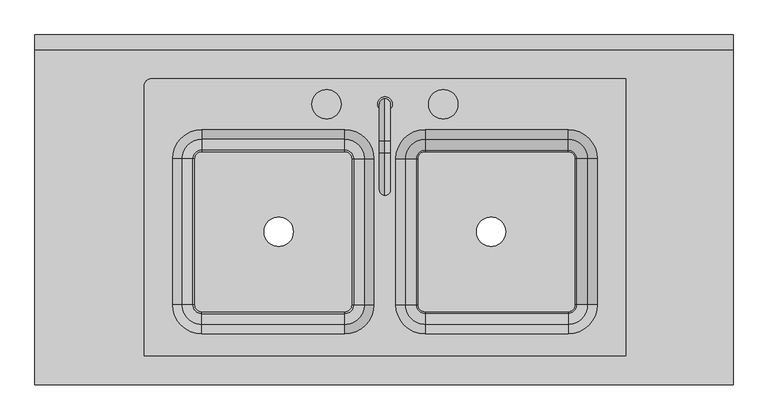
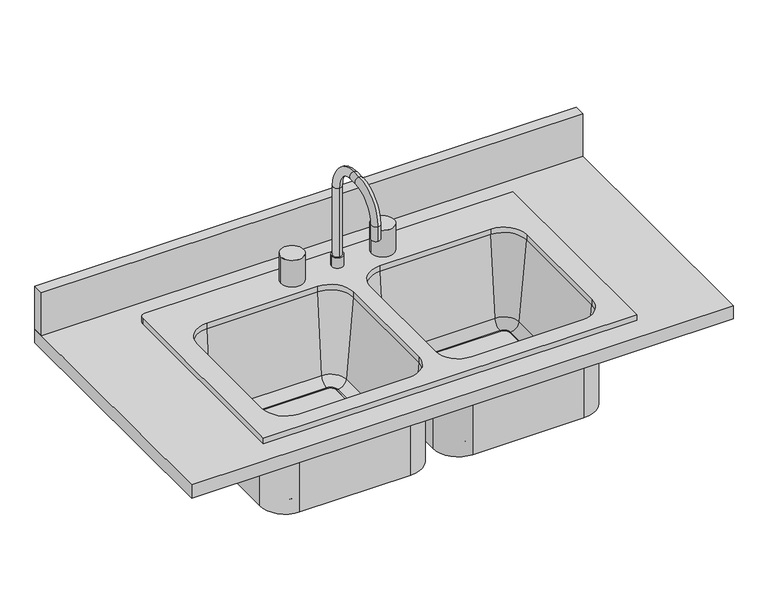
"""IFC4 building model written with IfcOpenShell, lengths in millimetres: furniture geometry."""

from ifc_helpers import new_model, si_unit, point, frame, frame_2d, origin, place, context, project, spatial, polyline, circle_curve, ellipse_curve, trimmed, segment, composite_curve, outline, extrude, source, transform, mapped, element, save
from ifc_brep_helpers import plane_surface, cylinder_surface, revolved_surface, advanced_brep


def furniture_b5d96ffa(model_context):
    return source(origin(), model_context, "Body", "SolidModel", [
        advanced_brep(
        [(420.6875, 101.6, 927.1), (-404.8125, 101.6, 927.1), (-417.5125, 88.9, 927.1), (-417.5125, -381.0, 927.1), (420.6875, -381.0, 927.1), (-68.2625, 12.7, 927.1), (-17.4625, -38.1, 927.1), (-17.4625, -292.1, 927.1), (-68.2625, -342.9, 927.1), (-317.5, -342.9, 927.1), (-368.3, -292.1, 927.1), (-368.3, -38.1, 927.1), (-317.5, 12.7, 927.1), (71.4375, -342.9, 927.1), (20.6375, -292.1, 927.1), (20.6375, -38.1, 927.1), (71.4375, 12.7, 927.1), (320.675, 12.7, 927.1), (371.475, -38.1, 927.1), (371.475, -292.1, 927.1), (320.675, -342.9, 927.1), (420.6875, 101.6, 914.4), (420.6875, -381.0, 914.4), (-417.5125, -381.0, 914.4), (-417.5125, 88.9, 914.4), (-404.8125, 101.6, 914.4), (71.4375, 19.05, 914.4), (14.2875, -38.1, 914.4), (14.2875, -292.1, 914.4), (71.4375, -349.25, 914.4), (320.675, -349.25, 914.4), (377.825, -292.1, 914.4), (377.825, -38.1, 914.4), (320.675, 19.05, 914.4), (-11.1125, -38.1, 914.4), (-68.2625, 19.05, 914.4), (-317.5, 19.05, 914.4), (-374.65, -38.1, 914.4), (-374.65, -292.1, 914.4), (-317.5, -349.25, 914.4), (-68.2625, -349.25, 914.4), (-11.1125, -292.1, 914.4), (-68.2625, 12.7, 914.4), (-17.4625, -38.1, 914.4), (-17.4625, -292.1, 914.4), (-68.2625, -342.9, 914.4), (-317.5, -342.9, 914.4), (-368.3, -292.1, 914.4), (-368.3, -38.1, 914.4), (-317.5, 12.7, 914.4), (71.4375, -342.9, 914.4), (20.6375, -292.1, 914.4), (20.6375, -38.1, 914.4), (71.4375, 12.7, 914.4), (320.675, 12.7, 914.4), (371.475, -38.1, 914.4), (371.475, -292.1, 914.4), (320.675, -342.9, 914.4), (37.1715728, -38.1, 725.4146831), (71.4375, -3.8340728, 725.4146831), (56.1490818, -38.1, 708.025), (71.4375, -22.8115818, 708.025), (58.7375, -38.1, 708.025), (71.4375, -25.4, 708.025), (58.7375, -38.1, 698.5), (71.4375, -25.4, 698.5), (14.2875, -38.1, 698.5), (71.4375, 19.05, 698.5), (37.1715728, -292.1, 725.4146831), (56.1490818, -292.1, 708.025), (58.7375, -292.1, 708.025), (58.7375, -292.1, 698.5), (14.2875, -292.1, 698.5), (71.4375, -326.3659272, 725.4146831), (71.4375, -307.3884182, 708.025), (71.4375, -304.8, 708.025), (71.4375, -304.8, 698.5), (71.4375, -349.25, 698.5), (320.675, -326.3659272, 725.4146831), (320.675, -307.3884182, 708.025), (320.675, -304.8, 708.025), (320.675, -304.8, 698.5), (320.675, -349.25, 698.5), (354.9409272, -292.1, 725.4146831), (335.9634182, -292.1, 708.025), (333.375, -292.1, 708.025), (333.375, -292.1, 698.5), (377.825, -292.1, 698.5), (354.9409272, -38.1, 725.4146831), (335.9634182, -38.1, 708.025), (333.375, -38.1, 708.025), (333.375, -38.1, 698.5), (377.825, -38.1, 698.5), (320.675, -3.8340728, 725.4146831), (320.675, -22.8115818, 708.025), (320.675, -25.4, 708.025), (320.675, -25.4, 698.5), (320.675, 19.05, 698.5), (-11.1125, -38.1, 698.5), (-68.2625, 19.05, 698.5), (-55.5625, -38.1, 698.5), (-68.2625, -25.4, 698.5), (-55.5625, -38.1, 708.025), (-68.2625, -25.4, 708.025), (-52.9740818, -38.1, 708.025), (-68.2625, -22.8115818, 708.025), (-33.9965728, -38.1, 725.4146831), (-68.2625, -3.8340728, 725.4146831), (-11.1125, -292.1, 698.5), (-55.5625, -292.1, 698.5), (-55.5625, -292.1, 708.025), (-52.9740818, -292.1, 708.025), (-33.9965728, -292.1, 725.4146831), (-68.2625, -349.25, 698.5), (-68.2625, -304.8, 698.5), (-68.2625, -304.8, 708.025), (-68.2625, -307.3884182, 708.025), (-68.2625, -326.3659272, 725.4146831), (-317.5, -349.25, 698.5), (-317.5, -304.8, 698.5), (-317.5, -304.8, 708.025), (-317.5, -307.3884182, 708.025), (-317.5, -326.3659272, 725.4146831), (-374.65, -292.1, 698.5), (-330.2, -292.1, 698.5), (-330.2, -292.1, 708.025), (-332.7884182, -292.1, 708.025), (-351.7659272, -292.1, 725.4146831), (-374.65, -38.1, 698.5), (-330.2, -38.1, 698.5), (-330.2, -38.1, 708.025), (-332.7884182, -38.1, 708.025), (-351.7659272, -38.1, 725.4146831), (-317.5, 19.05, 698.5), (-317.5, -25.4, 698.5), (-317.5, -25.4, 708.025), (-317.5, -22.8115818, 708.025), (-317.5, -3.8340728, 725.4146831)],
        [
            (0, 1),
            (1, 2, circle_curve(frame((-404.8125, 88.9, 927.1), z_axis=(0.0, 0.0, 1.0), x_axis=(1.0, 0.0, 0.0)), 12.7)),
            (2, 3),
            (3, 4),
            (4, 0),
            (5, 6, circle_curve(frame((-68.2625, -38.1, 927.1), z_axis=(0.0, 0.0, -1.0), x_axis=(1.0, 0.0, 0.0)), 50.8)),
            (6, 7),
            (7, 8, circle_curve(frame((-68.2625, -292.1, 927.1), z_axis=(0.0, 0.0, -1.0), x_axis=(1.0, 0.0, 0.0)), 50.8)),
            (8, 9),
            (9, 10, circle_curve(frame((-317.5, -292.1, 927.1), z_axis=(0.0, 0.0, -1.0), x_axis=(1.0, 0.0, 0.0)), 50.8)),
            (10, 11),
            (11, 12, circle_curve(frame((-317.5, -38.1, 927.1), z_axis=(0.0, 0.0, -1.0), x_axis=(1.0, 0.0, 0.0)), 50.8)),
            (12, 5),
            (13, 14, circle_curve(frame((71.4375, -292.1, 927.1), z_axis=(0.0, 0.0, -1.0), x_axis=(1.0, 0.0, 0.0)), 50.8)),
            (14, 15),
            (15, 16, circle_curve(frame((71.4375, -38.1, 927.1), z_axis=(0.0, 0.0, -1.0), x_axis=(1.0, 0.0, 0.0)), 50.8)),
            (16, 17),
            (17, 18, circle_curve(frame((320.675, -38.1, 927.1), z_axis=(0.0, 0.0, -1.0), x_axis=(1.0, 0.0, 0.0)), 50.8)),
            (18, 19),
            (19, 20, circle_curve(frame((320.675, -292.1, 927.1), z_axis=(0.0, 0.0, -1.0), x_axis=(1.0, 0.0, 0.0)), 50.8)),
            (20, 13),
            (21, 22),
            (22, 23),
            (23, 24),
            (24, 25, circle_curve(frame((-404.8125, 88.9, 914.4), z_axis=(0.0, 0.0, -1.0), x_axis=(1.0, 0.0, 0.0)), 12.7)),
            (25, 21),
            (26, 27, circle_curve(frame((71.4375, -38.1, 914.4), z_axis=(0.0, 0.0, 1.0), x_axis=(0.0, 1.0, 0.0)), 57.15)),
            (27, 28),
            (28, 29, circle_curve(frame((71.4375, -292.1, 914.4), z_axis=(0.0, 0.0, 1.0), x_axis=(-1.0, 0.0, 0.0)), 57.15)),
            (29, 30),
            (30, 31, circle_curve(frame((320.675, -292.1, 914.4), z_axis=(0.0, 0.0, 1.0), x_axis=(0.0, -1.0, 0.0)), 57.15)),
            (31, 32),
            (32, 33, circle_curve(frame((320.675, -38.1, 914.4), z_axis=(0.0, 0.0, 1.0), x_axis=(1.0, 0.0, 0.0)), 57.15)),
            (33, 26),
            (34, 35, circle_curve(frame((-68.2625, -38.1, 914.4), z_axis=(0.0, 0.0, 1.0), x_axis=(0.0, 1.0, 0.0)), 57.15)),
            (35, 36),
            (36, 37, circle_curve(frame((-317.5, -38.1, 914.4), z_axis=(0.0, 0.0, 1.0), x_axis=(-1.0, 0.0, 0.0)), 57.15)),
            (37, 38),
            (38, 39, circle_curve(frame((-317.5, -292.1, 914.4), z_axis=(0.0, 0.0, 1.0), x_axis=(0.0, -1.0, 0.0)), 57.15)),
            (39, 40),
            (40, 41, circle_curve(frame((-68.2625, -292.1, 914.4), z_axis=(0.0, 0.0, 1.0), x_axis=(1.0, 0.0, 0.0)), 57.15)),
            (41, 34),
            (0, 21),
            (25, 1),
            (24, 2),
            (23, 3),
            (22, 4),
            (5, 42),
            (42, 43, circle_curve(frame((-68.2625, -38.1, 914.4), z_axis=(0.0, 0.0, -1.0), x_axis=(1.0, 0.0, 0.0)), 50.8)),
            (43, 6),
            (43, 44),
            (44, 7),
            (44, 45, circle_curve(frame((-68.2625, -292.1, 914.4), z_axis=(0.0, 0.0, -1.0), x_axis=(1.0, 0.0, 0.0)), 50.8)),
            (45, 8),
            (45, 46),
            (46, 9),
            (46, 47, circle_curve(frame((-317.5, -292.1, 914.4), z_axis=(0.0, 0.0, -1.0), x_axis=(1.0, 0.0, 0.0)), 50.8)),
            (47, 10),
            (47, 48),
            (48, 11),
            (48, 49, circle_curve(frame((-317.5, -38.1, 914.4), z_axis=(0.0, 0.0, -1.0), x_axis=(1.0, 0.0, 0.0)), 50.8)),
            (49, 12),
            (49, 42),
            (13, 50),
            (50, 51, circle_curve(frame((71.4375, -292.1, 914.4), z_axis=(0.0, 0.0, -1.0), x_axis=(1.0, 0.0, 0.0)), 50.8)),
            (51, 14),
            (51, 52),
            (52, 15),
            (52, 53, circle_curve(frame((71.4375, -38.1, 914.4), z_axis=(0.0, 0.0, -1.0), x_axis=(1.0, 0.0, 0.0)), 50.8)),
            (53, 16),
            (53, 54),
            (54, 17),
            (54, 55, circle_curve(frame((320.675, -38.1, 914.4), z_axis=(0.0, 0.0, -1.0), x_axis=(1.0, 0.0, 0.0)), 50.8)),
            (55, 18),
            (55, 56),
            (56, 19),
            (56, 57, circle_curve(frame((320.675, -292.1, 914.4), z_axis=(0.0, 0.0, -1.0), x_axis=(1.0, 0.0, 0.0)), 50.8)),
            (57, 20),
            (57, 50),
            (58, 59, circle_curve(frame((71.4375, -38.1, 725.4146831), z_axis=(0.0, 0.0, -1.0), x_axis=(0.0, 1.0, 0.0)), 34.2659272)),
            (59, 53),
            (52, 58),
            (58, 60, circle_curve(frame((56.1490818, -38.1, 727.075), z_axis=(0.0, -1.0, 0.0), x_axis=(1.0, 0.0, 0.0)), 19.05)),
            (60, 61, circle_curve(frame((71.4375, -38.1, 708.025), z_axis=(0.0, 0.0, -1.0), x_axis=(0.0, 1.0, 0.0)), 15.2884182)),
            (61, 59, circle_curve(frame((71.4375, -22.8115818, 727.075), z_axis=(1.0, 0.0, 0.0), x_axis=(0.0, -1.0, 0.0)), 19.05)),
            (60, 62),
            (62, 63, circle_curve(frame((71.4375, -38.1, 708.025), z_axis=(0.0, 0.0, -1.0), x_axis=(0.0, 1.0, 0.0)), 12.7)),
            (63, 61),
            (62, 64),
            (64, 65, circle_curve(frame((71.4375, -38.1, 698.5), z_axis=(0.0, 0.0, -1.0), x_axis=(0.0, 1.0, 0.0)), 12.7)),
            (65, 63),
            (64, 66),
            (66, 67, circle_curve(frame((71.4375, -38.1, 698.5), z_axis=(0.0, 0.0, -1.0), x_axis=(0.0, 1.0, 0.0)), 57.15)),
            (67, 65),
            (66, 27),
            (26, 67),
            (51, 68),
            (68, 58),
            (68, 69, circle_curve(frame((56.1490818, -292.1, 727.075), z_axis=(0.0, -1.0, 0.0), x_axis=(1.0, 0.0, 0.0)), 19.05)),
            (69, 60),
            (69, 70),
            (70, 62),
            (70, 71),
            (71, 64),
            (71, 72),
            (72, 66),
            (72, 28),
            (50, 73),
            (73, 68, circle_curve(frame((71.4375, -292.1, 725.4146831), z_axis=(0.0, 0.0, -1.0), x_axis=(-1.0, 0.0, 0.0)), 34.2659272)),
            (73, 74, circle_curve(frame((71.4375, -307.3884182, 727.075), z_axis=(1.0, 0.0, 0.0), x_axis=(0.0, 1.0, 0.0)), 19.05)),
            (74, 69, circle_curve(frame((71.4375, -292.1, 708.025), z_axis=(0.0, 0.0, -1.0), x_axis=(-1.0, 0.0, 0.0)), 15.2884182)),
            (74, 75),
            (75, 70, circle_curve(frame((71.4375, -292.1, 708.025), z_axis=(0.0, 0.0, -1.0), x_axis=(-1.0, 0.0, 0.0)), 12.7)),
            (75, 76),
            (76, 71, circle_curve(frame((71.4375, -292.1, 698.5), z_axis=(0.0, 0.0, -1.0), x_axis=(-1.0, 0.0, 0.0)), 12.7)),
            (76, 77),
            (77, 72, circle_curve(frame((71.4375, -292.1, 698.5), z_axis=(0.0, 0.0, -1.0), x_axis=(-1.0, 0.0, 0.0)), 57.15)),
            (77, 29),
            (57, 78),
            (78, 73),
            (78, 79, circle_curve(frame((320.675, -307.3884182, 727.075), z_axis=(1.0, 0.0, 0.0), x_axis=(0.0, 1.0, 0.0)), 19.05)),
            (79, 74),
            (79, 80),
            (80, 75),
            (80, 81),
            (81, 76),
            (81, 82),
            (82, 77),
            (82, 30),
            (56, 83),
            (83, 78, circle_curve(frame((320.675, -292.1, 725.4146831), z_axis=(0.0, 0.0, -1.0), x_axis=(0.0, -1.0, 0.0)), 34.2659272)),
            (83, 84, circle_curve(frame((335.9634182, -292.1, 727.075), z_axis=(0.0, 1.0, 0.0), x_axis=(-1.0, 0.0, 0.0)), 19.05)),
            (84, 79, circle_curve(frame((320.675, -292.1, 708.025), z_axis=(0.0, 0.0, -1.0), x_axis=(0.0, -1.0, 0.0)), 15.2884182)),
            (84, 85),
            (85, 80, circle_curve(frame((320.675, -292.1, 708.025), z_axis=(0.0, 0.0, -1.0), x_axis=(0.0, -1.0, 0.0)), 12.7)),
            (85, 86),
            (86, 81, circle_curve(frame((320.675, -292.1, 698.5), z_axis=(0.0, 0.0, -1.0), x_axis=(0.0, -1.0, 0.0)), 12.7)),
            (86, 87),
            (87, 82, circle_curve(frame((320.675, -292.1, 698.5), z_axis=(0.0, 0.0, -1.0), x_axis=(0.0, -1.0, 0.0)), 57.15)),
            (87, 31),
            (55, 88),
            (88, 83),
            (88, 89, circle_curve(frame((335.9634182, -38.1, 727.075), z_axis=(0.0, 1.0, 0.0), x_axis=(-1.0, 0.0, 0.0)), 19.05)),
            (89, 84),
            (89, 90),
            (90, 85),
            (90, 91),
            (91, 86),
            (91, 92),
            (92, 87),
            (92, 32),
            (54, 93),
            (93, 88, circle_curve(frame((320.675, -38.1, 725.4146831), z_axis=(0.0, 0.0, -1.0), x_axis=(1.0, 0.0, 0.0)), 34.2659272)),
            (93, 94, circle_curve(frame((320.675, -22.8115818, 727.075), z_axis=(-1.0, 0.0, 0.0), x_axis=(0.0, -1.0, 0.0)), 19.05)),
            (94, 89, circle_curve(frame((320.675, -38.1, 708.025), z_axis=(0.0, 0.0, -1.0), x_axis=(1.0, 0.0, 0.0)), 15.2884182)),
            (94, 95),
            (95, 90, circle_curve(frame((320.675, -38.1, 708.025), z_axis=(0.0, 0.0, -1.0), x_axis=(1.0, 0.0, 0.0)), 12.7)),
            (95, 96),
            (96, 91, circle_curve(frame((320.675, -38.1, 698.5), z_axis=(0.0, 0.0, -1.0), x_axis=(1.0, 0.0, 0.0)), 12.7)),
            (96, 97),
            (97, 92, circle_curve(frame((320.675, -38.1, 698.5), z_axis=(0.0, 0.0, -1.0), x_axis=(1.0, 0.0, 0.0)), 57.15)),
            (97, 33),
            (59, 93),
            (61, 94),
            (63, 95),
            (65, 96),
            (67, 97),
            (98, 99, circle_curve(frame((-68.2625, -38.1, 698.5), z_axis=(0.0, 0.0, 1.0), x_axis=(0.0, 1.0, 0.0)), 57.15)),
            (99, 35),
            (34, 98),
            (98, 100),
            (100, 101, circle_curve(frame((-68.2625, -38.1, 698.5), z_axis=(0.0, 0.0, 1.0), x_axis=(0.0, 1.0, 0.0)), 12.7)),
            (101, 99),
            (100, 102),
            (102, 103, circle_curve(frame((-68.2625, -38.1, 708.025), z_axis=(0.0, 0.0, 1.0), x_axis=(0.0, 1.0, 0.0)), 12.7)),
            (103, 101),
            (102, 104),
            (104, 105, circle_curve(frame((-68.2625, -38.1, 708.025), z_axis=(0.0, 0.0, 1.0), x_axis=(0.0, 1.0, 0.0)), 15.2884182)),
            (105, 103),
            (104, 106, circle_curve(frame((-52.9740818, -38.1, 727.075), z_axis=(0.0, -1.0, 0.0), x_axis=(1.0, 0.0, 0.0)), 19.05)),
            (106, 107, circle_curve(frame((-68.2625, -38.1, 725.4146831), z_axis=(0.0, 0.0, 1.0), x_axis=(0.0, 1.0, 0.0)), 34.2659272)),
            (107, 105, circle_curve(frame((-68.2625, -22.8115818, 727.075), z_axis=(-1.0, 0.0, 0.0), x_axis=(0.0, 1.0, 0.0)), 19.05)),
            (106, 43),
            (42, 107),
            (41, 108),
            (108, 98),
            (108, 109),
            (109, 100),
            (109, 110),
            (110, 102),
            (110, 111),
            (111, 104),
            (111, 112, circle_curve(frame((-52.9740818, -292.1, 727.075), z_axis=(0.0, -1.0, 0.0), x_axis=(1.0, 0.0, 0.0)), 19.05)),
            (112, 106),
            (112, 44),
            (40, 113),
            (113, 108, circle_curve(frame((-68.2625, -292.1, 698.5), z_axis=(0.0, 0.0, 1.0), x_axis=(1.0, 0.0, 0.0)), 57.15)),
            (113, 114),
            (114, 109, circle_curve(frame((-68.2625, -292.1, 698.5), z_axis=(0.0, 0.0, 1.0), x_axis=(1.0, 0.0, 0.0)), 12.7)),
            (114, 115),
            (115, 110, circle_curve(frame((-68.2625, -292.1, 708.025), z_axis=(0.0, 0.0, 1.0), x_axis=(1.0, 0.0, 0.0)), 12.7)),
            (115, 116),
            (116, 111, circle_curve(frame((-68.2625, -292.1, 708.025), z_axis=(0.0, 0.0, 1.0), x_axis=(1.0, 0.0, 0.0)), 15.2884182)),
            (116, 117, circle_curve(frame((-68.2625, -307.3884182, 727.075), z_axis=(-1.0, 0.0, 0.0), x_axis=(0.0, -1.0, 0.0)), 19.05)),
            (117, 112, circle_curve(frame((-68.2625, -292.1, 725.4146831), z_axis=(0.0, 0.0, 1.0), x_axis=(1.0, 0.0, 0.0)), 34.2659272)),
            (117, 45),
            (39, 118),
            (118, 113),
            (118, 119),
            (119, 114),
            (119, 120),
            (120, 115),
            (120, 121),
            (121, 116),
            (121, 122, circle_curve(frame((-317.5, -307.3884182, 727.075), z_axis=(-1.0, 0.0, 0.0), x_axis=(0.0, -1.0, 0.0)), 19.05)),
            (122, 117),
            (122, 46),
            (38, 123),
            (123, 118, circle_curve(frame((-317.5, -292.1, 698.5), z_axis=(0.0, 0.0, 1.0), x_axis=(0.0, -1.0, 0.0)), 57.15)),
            (123, 124),
            (124, 119, circle_curve(frame((-317.5, -292.1, 698.5), z_axis=(0.0, 0.0, 1.0), x_axis=(0.0, -1.0, 0.0)), 12.7)),
            (124, 125),
            (125, 120, circle_curve(frame((-317.5, -292.1, 708.025), z_axis=(0.0, 0.0, 1.0), x_axis=(0.0, -1.0, 0.0)), 12.7)),
            (125, 126),
            (126, 121, circle_curve(frame((-317.5, -292.1, 708.025), z_axis=(0.0, 0.0, 1.0), x_axis=(0.0, -1.0, 0.0)), 15.2884182)),
            (126, 127, circle_curve(frame((-332.7884182, -292.1, 727.075), z_axis=(0.0, 1.0, 0.0), x_axis=(-1.0, 0.0, 0.0)), 19.05)),
            (127, 122, circle_curve(frame((-317.5, -292.1, 725.4146831), z_axis=(0.0, 0.0, 1.0), x_axis=(0.0, -1.0, 0.0)), 34.2659272)),
            (127, 47),
            (37, 128),
            (128, 123),
            (128, 129),
            (129, 124),
            (129, 130),
            (130, 125),
            (130, 131),
            (131, 126),
            (131, 132, circle_curve(frame((-332.7884182, -38.1, 727.075), z_axis=(0.0, 1.0, 0.0), x_axis=(-1.0, 0.0, 0.0)), 19.05)),
            (132, 127),
            (132, 48),
            (36, 133),
            (133, 128, circle_curve(frame((-317.5, -38.1, 698.5), z_axis=(0.0, 0.0, 1.0), x_axis=(-1.0, 0.0, 0.0)), 57.15)),
            (133, 134),
            (134, 129, circle_curve(frame((-317.5, -38.1, 698.5), z_axis=(0.0, 0.0, 1.0), x_axis=(-1.0, 0.0, 0.0)), 12.7)),
            (134, 135),
            (135, 130, circle_curve(frame((-317.5, -38.1, 708.025), z_axis=(0.0, 0.0, 1.0), x_axis=(-1.0, 0.0, 0.0)), 12.7)),
            (135, 136),
            (136, 131, circle_curve(frame((-317.5, -38.1, 708.025), z_axis=(0.0, 0.0, 1.0), x_axis=(-1.0, 0.0, 0.0)), 15.2884182)),
            (136, 137, circle_curve(frame((-317.5, -22.8115818, 727.075), z_axis=(1.0, 0.0, 0.0), x_axis=(0.0, 1.0, 0.0)), 19.05)),
            (137, 132, circle_curve(frame((-317.5, -38.1, 725.4146831), z_axis=(0.0, 0.0, 1.0), x_axis=(-1.0, 0.0, 0.0)), 34.2659272)),
            (137, 49),
            (99, 133),
            (101, 134),
            (103, 135),
            (105, 136),
            (107, 137),
        ],
        [
            plane_surface(frame((-404.8125, 101.6, 927.1), z_axis=(0.0, 0.0, 1.0), x_axis=(-1.0, 0.0, 0.0))),
            plane_surface(frame((-404.8125, 101.6, 914.4), z_axis=(0.0, 0.0, -1.0), x_axis=(1.0, 0.0, 0.0))),
            plane_surface(frame((420.6875, 101.6, 927.1), z_axis=(0.0, 1.0, 0.0), x_axis=(0.0, 0.0, -1.0))),
            cylinder_surface(frame((-404.8125, 88.9, 914.4), z_axis=(0.0, 0.0, 1.0), x_axis=(1.0, 0.0, 0.0)), 12.7),
            plane_surface(frame((-417.5125, 88.9, 927.1), z_axis=(-1.0, 0.0, 0.0), x_axis=(0.0, 0.0, -1.0))),
            plane_surface(frame((-417.5125, -381.0, 927.1), z_axis=(0.0, -1.0, 0.0), x_axis=(0.0, 0.0, -1.0))),
            plane_surface(frame((420.6875, -381.0, 927.1), z_axis=(1.0, 0.0, 0.0), x_axis=(0.0, 0.0, -1.0))),
            revolved_surface(polyline([(-17.462500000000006, -38.1, 914.4), (-17.462500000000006, -38.1, 927.1)]), (-68.2625, -38.1, 0.0), (0.0, 0.0, -1.0)),
            plane_surface(frame((-17.4625, -38.1, 927.1), z_axis=(-1.0, 0.0, 0.0), x_axis=(0.0, 0.0, -1.0))),
            revolved_surface(polyline([(-17.462500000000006, -292.1, 914.4), (-17.462500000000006, -292.1, 927.1)]), (-68.2625, -292.1, 0.0), (0.0, 0.0, -1.0)),
            plane_surface(frame((-68.2625, -342.9, 927.1), z_axis=(0.0, 1.0, 0.0), x_axis=(0.0, 0.0, -1.0))),
            revolved_surface(polyline([(-266.7, -292.1, 914.4), (-266.7, -292.1, 927.1)]), (-317.5, -292.1, 0.0), (0.0, 0.0, -1.0)),
            plane_surface(frame((-368.3, -292.1, 927.1), z_axis=(1.0, 0.0, 0.0), x_axis=(0.0, 0.0, -1.0))),
            revolved_surface(polyline([(-266.7, -38.1, 914.4), (-266.7, -38.1, 927.1)]), (-317.5, -38.1, 0.0), (0.0, 0.0, -1.0)),
            plane_surface(frame((-317.5, 12.7, 927.1), z_axis=(0.0, -1.0, 0.0), x_axis=(0.0, 0.0, -1.0))),
            revolved_surface(polyline([(122.2375, -292.1, 914.4), (122.2375, -292.1, 927.1)]), (71.4375, -292.1, 0.0), (0.0, 0.0, -1.0)),
            plane_surface(frame((20.6375, -292.1, 927.1), z_axis=(1.0, 0.0, 0.0), x_axis=(0.0, 0.0, -1.0))),
            revolved_surface(polyline([(122.2375, -38.1, 914.4), (122.2375, -38.1, 927.1)]), (71.4375, -38.1, 0.0), (0.0, 0.0, -1.0)),
            plane_surface(frame((71.4375, 12.7, 927.1), z_axis=(0.0, -1.0, 0.0), x_axis=(0.0, 0.0, -1.0))),
            revolved_surface(polyline([(371.475, -38.1, 914.4), (371.475, -38.1, 927.1)]), (320.675, -38.1, 0.0), (0.0, 0.0, -1.0)),
            plane_surface(frame((371.475, -38.1, 927.1), z_axis=(-1.0, 0.0, 0.0), x_axis=(0.0, 0.0, -1.0))),
            revolved_surface(polyline([(371.475, -292.1, 914.4), (371.475, -292.1, 927.1)]), (320.675, -292.1, 0.0), (0.0, 0.0, -1.0)),
            plane_surface(frame((320.675, -342.9, 927.1), z_axis=(0.0, 1.0, 0.0), x_axis=(0.0, 0.0, -1.0))),
            revolved_surface(polyline([(71.4375, 12.7, 914.4), (71.4375, -3.8340728, 725.4146831)]), (71.4375, -38.1, 0.0), (0.0, 0.0, 1.0)),
            revolved_surface(trimmed(ellipse_curve(frame((71.4375, -22.8115818, 727.075), z_axis=(-1.0, 0.0, 0.0), x_axis=(0.0, -1.0, 0.0)), 19.05, 19.05), [point((71.4375, -3.8340728, 725.4146831))], [point((71.4375, -22.8115818, 708.025))], True, "CARTESIAN"), (71.4375, -38.1, 0.0), (0.0, 0.0, 1.0)),
            plane_surface(frame((71.4375, -38.1, 708.025), z_axis=(0.0, 0.0, 1.0), x_axis=(0.0, 1.0, 0.0))),
            revolved_surface(polyline([(71.4375, -25.400000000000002, 708.025), (71.4375, -25.400000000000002, 698.5)]), (71.4375, -38.1, 0.0), (0.0, 0.0, 1.0)),
            plane_surface(frame((71.4375, -38.1, 698.5), z_axis=(0.0, 0.0, -1.0), x_axis=(0.0, 1.0, 0.0))),
            cylinder_surface(frame((71.4375, -38.1, 0.0), z_axis=(0.0, 0.0, 1.0), x_axis=(0.0, 1.0, 0.0)), 57.15),
            plane_surface(frame((20.6375, -38.1, 914.4), z_axis=(0.996194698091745, 0.0, 0.08715574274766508), x_axis=(0.0, -1.0, 0.0))),
            revolved_surface(polyline([(75.1990818, -292.1, 727.075), (75.1990818, -38.1, 727.075)]), (56.1490818, -38.1, 727.075), (0.0, -1.0, 0.0)),
            plane_surface(frame((56.1490818, -38.1, 708.025), z_axis=(0.0, 0.0, 1.0), x_axis=(0.0, -1.0, 0.0))),
            plane_surface(frame((58.7375, -38.1, 708.025), z_axis=(1.0, 0.0, 0.0), x_axis=(0.0, -1.0, 0.0))),
            plane_surface(frame((58.7375, -38.1, 698.5), z_axis=(0.0, 0.0, -1.0), x_axis=(0.0, -1.0, 0.0))),
            plane_surface(frame((14.2875, -38.1, 698.5), z_axis=(-1.0, 0.0, 0.0), x_axis=(0.0, -1.0, 0.0))),
            revolved_surface(polyline([(20.6375, -292.1, 914.4), (37.1715728, -292.1, 725.4146831)]), (71.4375, -292.1, 0.0), (0.0, 0.0, 1.0)),
            revolved_surface(trimmed(ellipse_curve(frame((56.1490818, -292.1, 727.075), z_axis=(0.0, -1.0, 0.0), x_axis=(1.0, 0.0, 0.0)), 19.05, 19.05), [point((37.1715728, -292.1, 725.4146831))], [point((56.1490818, -292.1, 708.025))], True, "CARTESIAN"), (71.4375, -292.1, 0.0), (0.0, 0.0, 1.0)),
            plane_surface(frame((71.4375, -292.1, 708.025), z_axis=(0.0, 0.0, 1.0), x_axis=(-1.0, 0.0, 0.0))),
            revolved_surface(polyline([(58.7375, -292.1, 708.025), (58.7375, -292.1, 698.5)]), (71.4375, -292.1, 0.0), (0.0, 0.0, 1.0)),
            plane_surface(frame((71.4375, -292.1, 698.5), z_axis=(0.0, 0.0, -1.0), x_axis=(-1.0, 0.0, 0.0))),
            cylinder_surface(frame((71.4375, -292.1, 0.0), z_axis=(0.0, 0.0, 1.0), x_axis=(-1.0, 0.0, 0.0)), 57.15),
            plane_surface(frame((71.4375, -342.9, 914.4), z_axis=(0.0, 0.996194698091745, 0.08715574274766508), x_axis=(1.0, 0.0, 0.0))),
            revolved_surface(polyline([(320.675, -288.3384182, 727.075), (71.4375, -288.3384182, 727.075)]), (71.4375, -307.3884182, 727.075), (1.0, 0.0, 0.0)),
            plane_surface(frame((71.4375, -307.3884182, 708.025), z_axis=(0.0, 0.0, 1.0), x_axis=(1.0, 0.0, 0.0))),
            plane_surface(frame((71.4375, -304.8, 708.025), z_axis=(0.0, 1.0, 0.0), x_axis=(1.0, 0.0, 0.0))),
            plane_surface(frame((71.4375, -304.8, 698.5), z_axis=(0.0, 0.0, -1.0), x_axis=(1.0, 0.0, 0.0))),
            plane_surface(frame((71.4375, -349.25, 698.5), z_axis=(0.0, -1.0, 0.0), x_axis=(1.0, 0.0, 0.0))),
            revolved_surface(polyline([(320.675, -342.9, 914.4), (320.675, -326.3659272, 725.4146831)]), (320.675, -292.1, 0.0), (0.0, 0.0, 1.0)),
            revolved_surface(trimmed(ellipse_curve(frame((320.675, -307.3884182, 727.075), z_axis=(1.0, 0.0, 0.0), x_axis=(0.0, 1.0, 0.0)), 19.05, 19.05), [point((320.675, -326.3659272, 725.4146831))], [point((320.675, -307.3884182, 708.025))], True, "CARTESIAN"), (320.675, -292.1, 0.0), (0.0, 0.0, 1.0)),
            plane_surface(frame((320.675, -292.1, 708.025), z_axis=(0.0, 0.0, 1.0), x_axis=(0.0, -1.0, 0.0))),
            revolved_surface(polyline([(320.675, -304.8, 708.025), (320.675, -304.8, 698.5)]), (320.675, -292.1, 0.0), (0.0, 0.0, 1.0)),
            plane_surface(frame((320.675, -292.1, 698.5), z_axis=(0.0, 0.0, -1.0), x_axis=(0.0, -1.0, 0.0))),
            cylinder_surface(frame((320.675, -292.1, 0.0), z_axis=(0.0, 0.0, 1.0), x_axis=(0.0, -1.0, 0.0)), 57.15),
            plane_surface(frame((371.475, -292.1, 914.4), z_axis=(-0.996194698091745, 0.0, 0.08715574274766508), x_axis=(0.0, 1.0, 0.0))),
            revolved_surface(polyline([(316.91341819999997, -38.099999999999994, 727.075), (316.91341819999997, -292.1, 727.075)]), (335.9634182, -292.1, 727.075), (0.0, 1.0, 0.0)),
            plane_surface(frame((335.9634182, -292.1, 708.025), z_axis=(0.0, 0.0, 1.0), x_axis=(0.0, 1.0, 0.0))),
            plane_surface(frame((333.375, -292.1, 708.025), z_axis=(-1.0, 0.0, 0.0), x_axis=(0.0, 1.0, 0.0))),
            plane_surface(frame((333.375, -292.1, 698.5), z_axis=(0.0, 0.0, -1.0), x_axis=(0.0, 1.0, 0.0))),
            plane_surface(frame((377.825, -292.1, 698.5), z_axis=(1.0, 0.0, 0.0), x_axis=(0.0, 1.0, 0.0))),
            revolved_surface(polyline([(371.475, -38.1, 914.4), (354.9409272, -38.1, 725.4146831)]), (320.675, -38.1, 0.0), (0.0, 0.0, 1.0)),
            revolved_surface(trimmed(ellipse_curve(frame((335.9634182, -38.1, 727.075), z_axis=(0.0, 1.0, 0.0), x_axis=(-1.0, 0.0, 0.0)), 19.05, 19.05), [point((354.9409272, -38.1, 725.4146831))], [point((335.9634182, -38.1, 708.025))], True, "CARTESIAN"), (320.675, -38.1, 0.0), (0.0, 0.0, 1.0)),
            plane_surface(frame((320.675, -38.1, 708.025), z_axis=(0.0, 0.0, 1.0), x_axis=(1.0, 0.0, 0.0))),
            revolved_surface(polyline([(333.375, -38.1, 708.025), (333.375, -38.1, 698.5)]), (320.675, -38.1, 0.0), (0.0, 0.0, 1.0)),
            plane_surface(frame((320.675, -38.1, 698.5), z_axis=(0.0, 0.0, -1.0), x_axis=(1.0, 0.0, 0.0))),
            cylinder_surface(frame((320.675, -38.1, 0.0), z_axis=(0.0, 0.0, 1.0), x_axis=(1.0, 0.0, 0.0)), 57.15),
            plane_surface(frame((320.675, 12.7, 914.4), z_axis=(0.0, -0.996194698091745, 0.08715574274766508), x_axis=(-1.0, 0.0, 0.0))),
            revolved_surface(polyline([(71.4375, -41.861581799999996, 727.075), (320.675, -41.861581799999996, 727.075)]), (320.675, -22.8115818, 727.075), (-1.0, 0.0, 0.0)),
            plane_surface(frame((320.675, -22.8115818, 708.025), z_axis=(0.0, 0.0, 1.0), x_axis=(-1.0, 0.0, 0.0))),
            plane_surface(frame((320.675, -25.4, 708.025), z_axis=(0.0, -1.0, 0.0), x_axis=(-1.0, 0.0, 0.0))),
            plane_surface(frame((320.675, -25.4, 698.5), z_axis=(0.0, 0.0, -1.0), x_axis=(-1.0, 0.0, 0.0))),
            plane_surface(frame((320.675, 19.05, 698.5), z_axis=(0.0, 1.0, 0.0), x_axis=(-1.0, 0.0, 0.0))),
            cylinder_surface(frame((-68.2625, -38.1, 0.0), z_axis=(0.0, 0.0, -1.0), x_axis=(0.0, 1.0, 0.0)), 57.15),
            plane_surface(frame((-68.2625, -38.1, 698.5), z_axis=(0.0, 0.0, -1.0), x_axis=(0.0, 1.0, 0.0))),
            revolved_surface(polyline([(-68.2625, -25.400000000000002, 698.5), (-68.2625, -25.400000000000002, 708.025)]), (-68.2625, -38.1, 0.0), (0.0, 0.0, -1.0)),
            plane_surface(frame((-68.2625, -38.1, 708.025), z_axis=(0.0, 0.0, 1.0), x_axis=(0.0, 1.0, 0.0))),
            revolved_surface(trimmed(ellipse_curve(frame((-68.2625, -22.8115818, 727.075), z_axis=(1.0, 0.0, 0.0), x_axis=(0.0, 1.0, 0.0)), 19.05, 19.05), [point((-68.2625, -22.8115818, 708.025))], [point((-68.2625, -3.8340728, 725.4146831))], True, "CARTESIAN"), (-68.2625, -38.1, 0.0), (0.0, 0.0, -1.0)),
            revolved_surface(polyline([(-68.2625, -3.8340728, 725.4146831), (-68.2625, 12.7, 914.4)]), (-68.2625, -38.1, 0.0), (0.0, 0.0, -1.0)),
            plane_surface(frame((-11.1125, -38.1, 914.4), z_axis=(1.0, 0.0, 0.0), x_axis=(0.0, -1.0, 0.0))),
            plane_surface(frame((-11.1125, -38.1, 698.5), z_axis=(0.0, 0.0, -1.0), x_axis=(0.0, -1.0, 0.0))),
            plane_surface(frame((-55.5625, -38.1, 698.5), z_axis=(-1.0, 0.0, 0.0), x_axis=(0.0, -1.0, 0.0))),
            plane_surface(frame((-55.5625, -38.1, 708.025), z_axis=(0.0, 0.0, 1.0), x_axis=(0.0, -1.0, 0.0))),
            revolved_surface(polyline([(-33.924081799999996, -292.1, 727.075), (-33.924081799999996, -38.1, 727.075)]), (-52.9740818, -38.1, 727.075), (0.0, -1.0, 0.0)),
            plane_surface(frame((-33.9965728, -38.1, 725.4146831), z_axis=(-0.9961946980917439, 0.0, 0.08715574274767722), x_axis=(0.0, -1.0, 0.0))),
            cylinder_surface(frame((-68.2625, -292.1, 0.0), z_axis=(0.0, 0.0, -1.0), x_axis=(1.0, 0.0, 0.0)), 57.15),
            plane_surface(frame((-68.2625, -292.1, 698.5), z_axis=(0.0, 0.0, -1.0), x_axis=(1.0, 0.0, 0.0))),
            revolved_surface(polyline([(-55.5625, -292.1, 698.5), (-55.5625, -292.1, 708.025)]), (-68.2625, -292.1, 0.0), (0.0, 0.0, -1.0)),
            plane_surface(frame((-68.2625, -292.1, 708.025), z_axis=(0.0, 0.0, 1.0), x_axis=(1.0, 0.0, 0.0))),
            revolved_surface(trimmed(ellipse_curve(frame((-52.9740818, -292.1, 727.075), z_axis=(0.0, -1.0, 0.0), x_axis=(1.0, 0.0, 0.0)), 19.05, 19.05), [point((-52.9740818, -292.1, 708.025))], [point((-33.9965728, -292.1, 725.4146831))], True, "CARTESIAN"), (-68.2625, -292.1, 0.0), (0.0, 0.0, -1.0)),
            revolved_surface(polyline([(-33.9965728, -292.1, 725.4146831), (-17.4625, -292.1, 914.4)]), (-68.2625, -292.1, 0.0), (0.0, 0.0, -1.0)),
            plane_surface(frame((-68.2625, -349.25, 914.4), z_axis=(0.0, -1.0, 0.0), x_axis=(-1.0, 0.0, 0.0))),
            plane_surface(frame((-68.2625, -349.25, 698.5), z_axis=(0.0, 0.0, -1.0), x_axis=(-1.0, 0.0, 0.0))),
            plane_surface(frame((-68.2625, -304.8, 698.5), z_axis=(0.0, 1.0, 0.0), x_axis=(-1.0, 0.0, 0.0))),
            plane_surface(frame((-68.2625, -304.8, 708.025), z_axis=(0.0, 0.0, 1.0), x_axis=(-1.0, 0.0, 0.0))),
            revolved_surface(polyline([(-317.5, -326.4384182, 727.075), (-68.2625, -326.4384182, 727.075)]), (-68.2625, -307.3884182, 727.075), (-1.0, 0.0, 0.0)),
            plane_surface(frame((-68.2625, -326.3659272, 725.4146831), z_axis=(0.0, 0.9961946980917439, 0.08715574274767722), x_axis=(-1.0, 0.0, 0.0))),
            cylinder_surface(frame((-317.5, -292.1, 0.0), z_axis=(0.0, 0.0, -1.0), x_axis=(0.0, -1.0, 0.0)), 57.15),
            plane_surface(frame((-317.5, -292.1, 698.5), z_axis=(0.0, 0.0, -1.0), x_axis=(0.0, -1.0, 0.0))),
            revolved_surface(polyline([(-317.5, -304.8, 698.5), (-317.5, -304.8, 708.025)]), (-317.5, -292.1, 0.0), (0.0, 0.0, -1.0)),
            plane_surface(frame((-317.5, -292.1, 708.025), z_axis=(0.0, 0.0, 1.0), x_axis=(0.0, -1.0, 0.0))),
            revolved_surface(trimmed(ellipse_curve(frame((-317.5, -307.3884182, 727.075), z_axis=(-1.0, 0.0, 0.0), x_axis=(0.0, -1.0, 0.0)), 19.05, 19.05), [point((-317.5, -307.3884182, 708.025))], [point((-317.5, -326.3659272, 725.4146831))], True, "CARTESIAN"), (-317.5, -292.1, 0.0), (0.0, 0.0, -1.0)),
            revolved_surface(polyline([(-317.5, -326.3659272, 725.4146831), (-317.5, -342.9, 914.4)]), (-317.5, -292.1, 0.0), (0.0, 0.0, -1.0)),
            plane_surface(frame((-374.65, -292.1, 914.4), z_axis=(-1.0, 0.0, 0.0), x_axis=(0.0, 1.0, 0.0))),
            plane_surface(frame((-374.65, -292.1, 698.5), z_axis=(0.0, 0.0, -1.0), x_axis=(0.0, 1.0, 0.0))),
            plane_surface(frame((-330.2, -292.1, 698.5), z_axis=(1.0, 0.0, 0.0), x_axis=(0.0, 1.0, 0.0))),
            plane_surface(frame((-330.2, -292.1, 708.025), z_axis=(0.0, 0.0, 1.0), x_axis=(0.0, 1.0, 0.0))),
            revolved_surface(polyline([(-351.83841820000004, -38.099999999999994, 727.075), (-351.83841820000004, -292.1, 727.075)]), (-332.7884182, -292.1, 727.075), (0.0, 1.0, 0.0)),
            plane_surface(frame((-351.7659272, -292.1, 725.4146831), z_axis=(0.9961946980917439, 0.0, 0.08715574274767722), x_axis=(0.0, 1.0, 0.0))),
            cylinder_surface(frame((-317.5, -38.1, 0.0), z_axis=(0.0, 0.0, -1.0), x_axis=(-1.0, 0.0, 0.0)), 57.15),
            plane_surface(frame((-317.5, -38.1, 698.5), z_axis=(0.0, 0.0, -1.0), x_axis=(-1.0, 0.0, 0.0))),
            revolved_surface(polyline([(-330.2, -38.1, 698.5), (-330.2, -38.1, 708.025)]), (-317.5, -38.1, 0.0), (0.0, 0.0, -1.0)),
            plane_surface(frame((-317.5, -38.1, 708.025), z_axis=(0.0, 0.0, 1.0), x_axis=(-1.0, 0.0, 0.0))),
            revolved_surface(trimmed(ellipse_curve(frame((-332.7884182, -38.1, 727.075), z_axis=(0.0, 1.0, 0.0), x_axis=(-1.0, 0.0, 0.0)), 19.05, 19.05), [point((-332.7884182, -38.1, 708.025))], [point((-351.7659272, -38.1, 725.4146831))], True, "CARTESIAN"), (-317.5, -38.1, 0.0), (0.0, 0.0, -1.0)),
            revolved_surface(polyline([(-351.7659272, -38.1, 725.4146831), (-368.3, -38.1, 914.4)]), (-317.5, -38.1, 0.0), (0.0, 0.0, -1.0)),
            plane_surface(frame((-317.5, 19.05, 914.4), z_axis=(0.0, 1.0, 0.0), x_axis=(1.0, 0.0, 0.0))),
            plane_surface(frame((-317.5, 19.05, 698.5), z_axis=(0.0, 0.0, -1.0), x_axis=(1.0, 0.0, 0.0))),
            plane_surface(frame((-317.5, -25.4, 698.5), z_axis=(0.0, -1.0, 0.0), x_axis=(1.0, 0.0, 0.0))),
            plane_surface(frame((-317.5, -25.4, 708.025), z_axis=(0.0, 0.0, 1.0), x_axis=(1.0, 0.0, 0.0))),
            revolved_surface(polyline([(-68.26249999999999, -3.7615817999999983, 727.075), (-317.5, -3.7615817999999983, 727.075)]), (-317.5, -22.8115818, 727.075), (1.0, 0.0, 0.0)),
            plane_surface(frame((-317.5, -3.8340728, 725.4146831), z_axis=(0.0, -0.9961946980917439, 0.08715574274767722), x_axis=(1.0, 0.0, 0.0))),
        ],
        [
            (0, [[1, 2, 3, 4, 5], [6, 7, 8, 9, 10, 11, 12, 13], [14, 15, 16, 17, 18, 19, 20, 21]]),
            (1, [[22, 23, 24, 25, 26], [27, 28, 29, 30, 31, 32, 33, 34], [35, 36, 37, 38, 39, 40, 41, 42]]),
            (2, [[-1, 43, -26, 44]]),
            (3, [[-2, -44, -25, 45]]),
            (4, [[-3, -45, -24, 46]]),
            (5, [[-4, -46, -23, 47]]),
            (6, [[-5, -47, -22, -43]]),
            (7, [[-6, 48, 49, 50]]),
            (8, [[-7, -50, 51, 52]]),
            (9, [[-8, -52, 53, 54]]),
            (10, [[-9, -54, 55, 56]]),
            (11, [[-10, -56, 57, 58]]),
            (12, [[-11, -58, 59, 60]]),
            (13, [[-12, -60, 61, 62]]),
            (14, [[-13, -62, 63, -48]]),
            (15, [[-14, 64, 65, 66]]),
            (16, [[-15, -66, 67, 68]]),
            (17, [[-16, -68, 69, 70]]),
            (18, [[-17, -70, 71, 72]]),
            (19, [[-18, -72, 73, 74]]),
            (20, [[-19, -74, 75, 76]]),
            (21, [[-20, -76, 77, 78]]),
            (22, [[-21, -78, 79, -64]]),
            (23, [[80, 81, -69, 82]]),
            (24, [[-80, 83, 84, 85]]),
            (25, [[-84, 86, 87, 88]]),
            (26, [[-87, 89, 90, 91]]),
            (27, [[-90, 92, 93, 94]]),
            (28, [[-93, 95, -27, 96]]),
            (29, [[-82, -67, 97, 98]]),
            (30, [[-83, -98, 99, 100]]),
            (31, [[-86, -100, 101, 102]]),
            (32, [[-89, -102, 103, 104]]),
            (33, [[-92, -104, 105, 106]]),
            (34, [[-95, -106, 107, -28]]),
            (35, [[-97, -65, 108, 109]]),
            (36, [[-99, -109, 110, 111]]),
            (37, [[-101, -111, 112, 113]]),
            (38, [[-103, -113, 114, 115]]),
            (39, [[-105, -115, 116, 117]]),
            (40, [[-107, -117, 118, -29]]),
            (41, [[-108, -79, 119, 120]]),
            (42, [[-110, -120, 121, 122]]),
            (43, [[-112, -122, 123, 124]]),
            (44, [[-114, -124, 125, 126]]),
            (45, [[-116, -126, 127, 128]]),
            (46, [[-118, -128, 129, -30]]),
            (47, [[-119, -77, 130, 131]]),
            (48, [[-121, -131, 132, 133]]),
            (49, [[-123, -133, 134, 135]]),
            (50, [[-125, -135, 136, 137]]),
            (51, [[-127, -137, 138, 139]]),
            (52, [[-129, -139, 140, -31]]),
            (53, [[-130, -75, 141, 142]]),
            (54, [[-132, -142, 143, 144]]),
            (55, [[-134, -144, 145, 146]]),
            (56, [[-136, -146, 147, 148]]),
            (57, [[-138, -148, 149, 150]]),
            (58, [[-140, -150, 151, -32]]),
            (59, [[-141, -73, 152, 153]]),
            (60, [[-143, -153, 154, 155]]),
            (61, [[-145, -155, 156, 157]]),
            (62, [[-147, -157, 158, 159]]),
            (63, [[-149, -159, 160, 161]]),
            (64, [[-151, -161, 162, -33]]),
            (65, [[-81, 163, -152, -71]]),
            (66, [[-85, 164, -154, -163]]),
            (67, [[-88, 165, -156, -164]]),
            (68, [[-91, 166, -158, -165]]),
            (69, [[-94, 167, -160, -166]]),
            (70, [[-96, -34, -162, -167]]),
            (71, [[168, 169, -35, 170]]),
            (72, [[-168, 171, 172, 173]]),
            (73, [[-172, 174, 175, 176]]),
            (74, [[-175, 177, 178, 179]]),
            (75, [[-178, 180, 181, 182]]),
            (76, [[-181, 183, -49, 184]]),
            (77, [[-170, -42, 185, 186]]),
            (78, [[-171, -186, 187, 188]]),
            (79, [[-174, -188, 189, 190]]),
            (80, [[-177, -190, 191, 192]]),
            (81, [[-180, -192, 193, 194]]),
            (82, [[-183, -194, 195, -51]]),
            (83, [[-185, -41, 196, 197]]),
            (84, [[-187, -197, 198, 199]]),
            (85, [[-189, -199, 200, 201]]),
            (86, [[-191, -201, 202, 203]]),
            (87, [[-193, -203, 204, 205]]),
            (88, [[-195, -205, 206, -53]]),
            (89, [[-196, -40, 207, 208]]),
            (90, [[-198, -208, 209, 210]]),
            (91, [[-200, -210, 211, 212]]),
            (92, [[-202, -212, 213, 214]]),
            (93, [[-204, -214, 215, 216]]),
            (94, [[-206, -216, 217, -55]]),
            (95, [[-207, -39, 218, 219]]),
            (96, [[-209, -219, 220, 221]]),
            (97, [[-211, -221, 222, 223]]),
            (98, [[-213, -223, 224, 225]]),
            (99, [[-215, -225, 226, 227]]),
            (100, [[-217, -227, 228, -57]]),
            (101, [[-218, -38, 229, 230]]),
            (102, [[-220, -230, 231, 232]]),
            (103, [[-222, -232, 233, 234]]),
            (104, [[-224, -234, 235, 236]]),
            (105, [[-226, -236, 237, 238]]),
            (106, [[-228, -238, 239, -59]]),
            (107, [[-229, -37, 240, 241]]),
            (108, [[-231, -241, 242, 243]]),
            (109, [[-233, -243, 244, 245]]),
            (110, [[-235, -245, 246, 247]]),
            (111, [[-237, -247, 248, 249]]),
            (112, [[-239, -249, 250, -61]]),
            (113, [[-169, 251, -240, -36]]),
            (114, [[-173, 252, -242, -251]]),
            (115, [[-176, 253, -244, -252]]),
            (116, [[-179, 254, -246, -253]]),
            (117, [[-182, 255, -248, -254]]),
            (118, [[-184, -63, -250, -255]]),
        ],
    ),
        extrude(outline(composite_curve([segment(trimmed(circle_curve(frame_2d((331.7875, -35.5115818)), 12.7), [point((331.7875, -22.8115818))], [point((344.4875, -35.5115818))], False, "CARTESIAN"), True, "CONTINUOUS"), segment(polyline([(344.4875, -35.5115818), (344.4875, -292.1)]), True, "CONTINUOUS"), segment(trimmed(circle_curve(frame_2d((331.7875, -292.1)), 12.7), [point((344.4875, -292.1))], [point((331.7875, -304.8))], False, "CARTESIAN"), True, "CONTINUOUS"), segment(polyline([(331.7875, -304.8), (71.4375, -304.8)]), True, "CONTINUOUS"), segment(trimmed(circle_curve(frame_2d((71.4375, -292.1)), 12.7), [point((71.4375, -304.8))], [point((58.7375, -292.1))], False, "CARTESIAN"), True, "CONTINUOUS"), segment(polyline([(58.7375, -292.1), (58.7375, -35.5115818)]), True, "CONTINUOUS"), segment(trimmed(circle_curve(frame_2d((71.4375, -35.5115818)), 12.7), [point((58.7375, -35.5115818))], [point((71.4375, -22.8115818))], False, "CARTESIAN"), True, "CONTINUOUS"), segment(polyline([(71.4375, -22.8115818), (331.7875, -22.8115818)]), True, "CONTINUOUS")], self_intersect=False), holes=[composite_curve([segment(trimmed(circle_curve(frame_2d((186.53125, -165.1)), 25.4), [point((161.13125, -165.1))], [point((211.93125, -165.1))], True, "CARTESIAN"), True, "CONTINUOUS"), segment(trimmed(circle_curve(frame_2d((186.53125, -165.1)), 25.4), [point((211.93125, -165.1))], [point((161.13125, -165.1))], True, "CARTESIAN"), True, "CONTINUOUS")], self_intersect=False)]), frame((0.0, 0.0, 698.5), z_axis=(0.0, 0.0, 1.0), x_axis=(1.0, 0.0, 0.0)), (0.0, 0.0, 1.0), 9.525),
        extrude(outline(composite_curve([segment(trimmed(circle_curve(frame_2d((-100.0125, 57.15)), 25.4), [point((-125.4125, 57.15))], [point((-74.6125, 57.15))], False, "CARTESIAN"), True, "CONTINUOUS"), segment(trimmed(circle_curve(frame_2d((-100.0125, 57.15)), 25.4), [point((-74.6125, 57.15))], [point((-125.4125, 57.15))], False, "CARTESIAN"), True, "CONTINUOUS")], self_intersect=False)), frame((0.0, 0.0, 927.1), z_axis=(0.0, 0.0, 1.0), x_axis=(1.0, 0.0, 0.0)), (0.0, 0.0, 1.0), 63.5),
        extrude(outline(composite_curve([segment(trimmed(circle_curve(frame_2d((103.1875, 57.15)), 25.4), [point((77.7875, 57.15))], [point((128.5875, 57.15))], False, "CARTESIAN"), True, "CONTINUOUS"), segment(trimmed(circle_curve(frame_2d((103.1875, 57.15)), 25.4), [point((128.5875, 57.15))], [point((77.7875, 57.15))], False, "CARTESIAN"), True, "CONTINUOUS")], self_intersect=False)), frame((0.0, 0.0, 927.1), z_axis=(0.0, 0.0, 1.0), x_axis=(1.0, 0.0, 0.0)), (0.0, 0.0, 1.0), 63.5),
        extrude(outline(composite_curve([segment(trimmed(circle_curve(frame_2d((-68.2625, -38.1)), 12.7), [point((-68.2625, -25.4))], [point((-55.5625, -38.1))], False, "CARTESIAN"), True, "CONTINUOUS"), segment(polyline([(-55.5625, -38.1), (-55.5625, -292.1)]), True, "CONTINUOUS"), segment(trimmed(circle_curve(frame_2d((-68.2625, -292.1)), 12.7), [point((-55.5625, -292.1))], [point((-68.2625, -304.8))], False, "CARTESIAN"), True, "CONTINUOUS"), segment(polyline([(-68.2625, -304.8), (-317.5, -304.8)]), True, "CONTINUOUS"), segment(trimmed(circle_curve(frame_2d((-317.5, -292.1)), 12.7), [point((-317.5, -304.8))], [point((-330.2, -292.1))], False, "CARTESIAN"), True, "CONTINUOUS"), segment(polyline([(-330.2, -292.1), (-330.2, -38.1)]), True, "CONTINUOUS"), segment(trimmed(circle_curve(frame_2d((-317.5, -38.1)), 12.7), [point((-330.2, -38.1))], [point((-317.5, -25.4))], False, "CARTESIAN"), True, "CONTINUOUS"), segment(polyline([(-317.5, -25.4), (-68.2625, -25.4)]), True, "CONTINUOUS")], self_intersect=False), holes=[composite_curve([segment(trimmed(circle_curve(frame_2d((-183.35625, -165.1)), 25.4), [point((-208.75625, -165.1))], [point((-157.95625, -165.1))], True, "CARTESIAN"), True, "CONTINUOUS"), segment(trimmed(circle_curve(frame_2d((-183.35625, -165.1)), 25.4), [point((-157.95625, -165.1))], [point((-208.75625, -165.1))], True, "CARTESIAN"), True, "CONTINUOUS")], self_intersect=False)]), frame((0.0, 0.0, 698.5), z_axis=(0.0, 0.0, 1.0), x_axis=(1.0, 0.0, 0.0)), (0.0, 0.0, 1.0), 9.525),
        advanced_brep(
        [(-11.1125, 57.15, 927.1), (14.2875, 57.15, 927.1), (1.5875, 66.675, 1114.425), (1.5875, 47.625, 1114.425), (1.5875, 47.625, 952.5), (1.5875, 66.675, 952.5), (1.5875, -6.35, 1187.45), (1.5875, -6.35, 1168.4), (1.5875, -28.575, 1168.4), (1.5875, -28.575, 1187.45), (1.5875, -101.6, 1114.425), (1.5875, -82.55, 1114.425), (1.5875, -101.6, 1079.5), (1.5875, -82.55, 1079.5), (-11.1125, 57.15, 952.5), (14.2875, 57.15, 952.5)],
        [
            (0, 1, circle_curve(frame((1.5875, 57.15, 927.1), z_axis=(0.0, 0.0, -1.0), x_axis=(1.0, 0.0, 0.0)), 12.7)),
            (1, 0, circle_curve(frame((1.5875, 57.15, 927.1), z_axis=(0.0, 0.0, -1.0), x_axis=(1.0, 0.0, 0.0)), 12.7)),
            (2, 3, circle_curve(frame((1.5875, 57.15, 1114.425), z_axis=(0.0, 0.0, -1.0), x_axis=(0.0, -1.0, 0.0)), 9.525)),
            (3, 4),
            (4, 5, circle_curve(frame((1.5875, 57.15, 952.5), z_axis=(0.0, 0.0, 1.0), x_axis=(0.0, -1.0, 0.0)), 9.525)),
            (5, 2),
            (3, 2, circle_curve(frame((1.5875, 57.15, 1114.425), z_axis=(0.0, 0.0, -1.0), x_axis=(0.0, -1.0, 0.0)), 9.525)),
            (5, 4, circle_curve(frame((1.5875, 57.15, 952.5), z_axis=(0.0, 0.0, 1.0), x_axis=(0.0, -1.0, 0.0)), 9.525)),
            (2, 6, circle_curve(frame((1.5875, -6.35, 1114.425), z_axis=(1.0, 0.0, 0.0), x_axis=(0.0, 1.0, 0.0)), 73.025)),
            (6, 7, circle_curve(frame((1.5875, -6.35, 1177.925), z_axis=(0.0, 1.0, 0.0), x_axis=(0.0, 0.0, -1.0)), 9.525)),
            (7, 3, circle_curve(frame((1.5875, -6.35, 1114.425), z_axis=(-1.0, 0.0, 0.0), x_axis=(0.0, 1.0, 0.0)), 53.975)),
            (7, 6, circle_curve(frame((1.5875, -6.35, 1177.925), z_axis=(0.0, 1.0, 0.0), x_axis=(0.0, 0.0, -1.0)), 9.525)),
            (8, 9, circle_curve(frame((1.5875, -28.575, 1177.925), z_axis=(0.0, -1.0, 0.0), x_axis=(0.0, 0.0, -1.0)), 9.525)),
            (9, 10, circle_curve(frame((1.5875, -28.575, 1114.425), z_axis=(1.0, 0.0, 0.0), x_axis=(0.0, 0.0, 1.0)), 73.025)),
            (10, 11, circle_curve(frame((1.5875, -92.075, 1114.425), z_axis=(0.0, 0.0, 1.0), x_axis=(0.0, 1.0, 0.0)), 9.525)),
            (11, 8, circle_curve(frame((1.5875, -28.575, 1114.425), z_axis=(-1.0, 0.0, 0.0), x_axis=(0.0, 0.0, 1.0)), 53.975)),
            (9, 8, circle_curve(frame((1.5875, -28.575, 1177.925), z_axis=(0.0, -1.0, 0.0), x_axis=(0.0, 0.0, -1.0)), 9.525)),
            (11, 10, circle_curve(frame((1.5875, -92.075, 1114.425), z_axis=(0.0, 0.0, 1.0), x_axis=(0.0, 1.0, 0.0)), 9.525)),
            (12, 13, circle_curve(frame((1.5875, -92.075, 1079.5), z_axis=(0.0, 0.0, -1.0), x_axis=(0.0, 1.0, 0.0)), 9.525)),
            (13, 12, circle_curve(frame((1.5875, -92.075, 1079.5), z_axis=(0.0, 0.0, -1.0), x_axis=(0.0, 1.0, 0.0)), 9.525)),
            (10, 12),
            (13, 11),
            (14, 15, circle_curve(frame((1.5875, 57.15, 952.5), z_axis=(0.0, 0.0, 1.0), x_axis=(1.0, 0.0, 0.0)), 12.7)),
            (15, 14, circle_curve(frame((1.5875, 57.15, 952.5), z_axis=(0.0, 0.0, 1.0), x_axis=(1.0, 0.0, 0.0)), 12.7)),
            (14, 0),
            (1, 15),
            (6, 9),
            (8, 7),
        ],
        [
            plane_surface(frame((1.5875, 47.625, 927.1), z_axis=(0.0, 0.0, -1.0), x_axis=(1.0, 0.0, 0.0))),
            cylinder_surface(frame((1.5875, 57.15, 927.1), z_axis=(0.0, 0.0, -1.0), x_axis=(0.0, -1.0, 0.0)), 9.525),
            revolved_surface(trimmed(ellipse_curve(frame((1.5875, 57.15, 1114.425), z_axis=(0.0, 0.0, -1.0), x_axis=(0.0, -1.0, 0.0)), 9.525, 9.525), [point((1.5875, 66.675, 1114.425))], [point((1.5875, 47.625, 1114.425))], True, "CARTESIAN"), (1.5875, -6.35, 1114.425), (1.0, 0.0, 0.0)),
            revolved_surface(trimmed(ellipse_curve(frame((1.5875, 57.15, 1114.425), z_axis=(0.0, 0.0, -1.0), x_axis=(0.0, -1.0, 0.0)), 9.525, 9.525), [point((1.5875, 47.625, 1114.425))], [point((1.5875, 66.675, 1114.425))], True, "CARTESIAN"), (1.5875, -6.35, 1114.425), (1.0, 0.0, 0.0)),
            revolved_surface(trimmed(ellipse_curve(frame((1.5875, -28.575, 1177.925), z_axis=(0.0, 1.0, 0.0), x_axis=(0.0, 0.0, -1.0)), 9.525, 9.525), [point((1.5875, -28.575, 1187.45))], [point((1.5875, -28.575, 1168.4))], True, "CARTESIAN"), (1.5875, -28.575, 1114.425), (1.0, 0.0, 0.0)),
            revolved_surface(trimmed(ellipse_curve(frame((1.5875, -28.575, 1177.925), z_axis=(0.0, 1.0, 0.0), x_axis=(0.0, 0.0, -1.0)), 9.525, 9.525), [point((1.5875, -28.575, 1168.4))], [point((1.5875, -28.575, 1187.45))], True, "CARTESIAN"), (1.5875, -28.575, 1114.425), (1.0, 0.0, 0.0)),
            plane_surface(frame((1.5875, -101.6, 1079.5), z_axis=(0.0, 0.0, -1.0), x_axis=(-1.0, 0.0, 0.0))),
            cylinder_surface(frame((1.5875, -92.075, 1114.425), z_axis=(0.0, 0.0, 1.0), x_axis=(0.0, 1.0, 0.0)), 9.525),
            plane_surface(frame((14.2875, 57.15, 952.5), z_axis=(0.0, 0.0, 1.0), x_axis=(0.0, 1.0, 0.0))),
            cylinder_surface(frame((1.5875, 57.15, 927.1), z_axis=(0.0, 0.0, 1.0), x_axis=(1.0, 0.0, 0.0)), 12.7),
            cylinder_surface(frame((1.5875, -6.35, 1177.925), z_axis=(0.0, 1.0, 0.0), x_axis=(0.0, 0.0, -1.0)), 9.525),
        ],
        [
            (0, [[1, 2]]),
            (1, [[3, 4, 5, 6]]),
            (1, [[7, -6, 8, -4]]),
            (2, [[-3, 9, 10, 11]]),
            (3, [[-7, -11, 12, -9]]),
            (4, [[13, 14, 15, 16]]),
            (5, [[17, -16, 18, -14]]),
            (6, [[19, 20]]),
            (7, [[-15, 21, -20, 22]]),
            (7, [[-18, -22, -19, -21]]),
            (8, [[23, 24], [-5, -8]]),
            (9, [[-23, 25, -2, 26]]),
            (9, [[-24, -26, -1, -25]]),
            (10, [[-10, 27, -13, 28]]),
            (10, [[-12, -28, -17, -27]]),
        ],
    ),
        extrude(outline(polyline([(608.0125, 177.8), (608.0125, 152.4), (-608.0125, 152.4), (-608.0125, 177.8), (608.0125, 177.8)])), frame((0.0, 0.0, 914.4), z_axis=(0.0, 0.0, 1.0), x_axis=(1.0, 0.0, 0.0)), (0.0, 0.0, 1.0), 101.6),
        extrude(outline(polyline([(608.0125, 177.8), (608.0125, -431.8), (-608.0125, -431.8), (-608.0125, 177.8), (608.0125, 177.8)]), holes=[composite_curve([segment(polyline([(-379.4125, -12.7), (-379.4125, -317.5)]), True, "CONTINUOUS"), segment(trimmed(circle_curve(frame_2d((-354.0125, -317.5)), 25.4), [point((-379.4125, -317.5))], [point((-354.0125, -342.9))], True, "CARTESIAN"), True, "CONTINUOUS"), segment(polyline([(-354.0125, -342.9), (357.1875, -342.9)]), True, "CONTINUOUS"), segment(trimmed(circle_curve(frame_2d((357.1875, -317.5)), 25.4), [point((357.1875, -342.9))], [point((382.5875, -317.5))], True, "CARTESIAN"), True, "CONTINUOUS"), segment(polyline([(382.5875, -317.5), (382.5875, -12.7)]), True, "CONTINUOUS"), segment(trimmed(circle_curve(frame_2d((357.1875, -12.7)), 25.4), [point((382.5875, -12.7))], [point((357.1875, 12.7))], True, "CARTESIAN"), True, "CONTINUOUS"), segment(polyline([(357.1875, 12.7), (-354.0125, 12.7)]), True, "CONTINUOUS"), segment(trimmed(circle_curve(frame_2d((-354.0125, -12.7)), 25.4), [point((-354.0125, 12.7))], [point((-379.4125, -12.7))], True, "CARTESIAN"), True, "CONTINUOUS")], self_intersect=False)]), frame((0.0, 0.0, 882.65), z_axis=(0.0, 0.0, 1.0), x_axis=(1.0, 0.0, 0.0)), (0.0, 0.0, 1.0), 31.75),
    ])


if __name__ == "__main__":
    model = new_model("IFC4")
    model_context = context("Model", 3, world=origin())
    ifc_project = project(units=[si_unit("LENGTHUNIT", "METRE", prefix="MILLI")], contexts=[model_context])
    site = spatial("IfcSite", under=ifc_project)
    building = spatial("IfcBuilding", under=site)
    placement = place(None, origin())
    furniture_shape = furniture_b5d96ffa(model_context)
    element("IfcFurniture", 1, ObjectType="HermanMiller_CoStruc_C2142_StandardDutyWork Surface_WithSink : 24\"D x 48\"W Solid W/Dbl Sink", at=placement, inside=building, context=model_context, shape_type="MappedRepresentation", body=[
        mapped(furniture_shape, transform((0.0, 0.0, 0.0), x_axis=(1.0, 0.0, 0.0), y_axis=(0.0, 1.0, 0.0), z_axis=(0.0, 0.0, 1.0))),
    ])
    save(model, "model.ifc")
